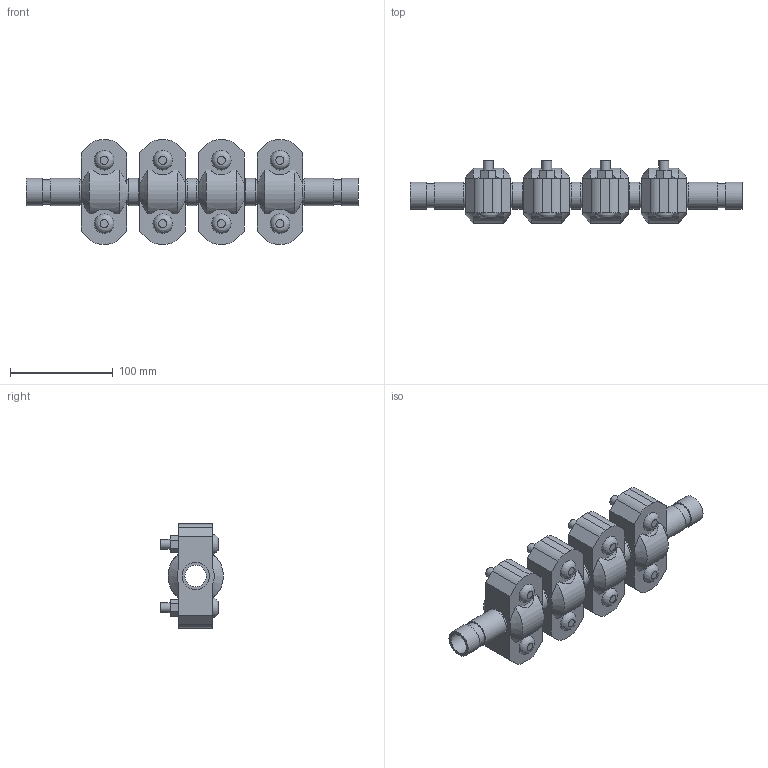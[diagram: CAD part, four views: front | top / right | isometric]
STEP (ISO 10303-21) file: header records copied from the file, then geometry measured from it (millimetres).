
FILE_DESCRIPTION(/* description */ ('VIC EXPANSION JOINT 4 COUPLINGS COMPRESSED STYLE 155 (OGS)','CAx-IF Rec.Pracs.---Representation and Presentation of Product Manufacturing Information (PMI)---4.0---2014-10-13'),/* implementation_level */ '2;1');
FILE_NAME(/* name */ 'C:\Users\kkamble\AppData\Roaming\Autodesk\ApplicationPlugins\Victaulic.Temp\A318\Victaulic_IPS_Expansion Joint_Compressed_4 Couplings_Style 155 (OGS)_0.75 (20).stp',/* time_stamp */ '2021-06-27T00:26:57+02:00',/* author */ ('kkamble'),/* organization */ ('Victaulic'),/* preprocessor_version */ 'ST-DEVELOPER v17.2',/* originating_system */ 'Autodesk Inventor 2019',/* authorisation */ '');
FILE_SCHEMA (('AP242_MANAGED_MODEL_BASED_3D_ENGINEERING_MIM_LF { 1 0 10303 442 1 1 4 }'));
Length unit declared in the file: inch
Products named in the file (4): 155-0.75; Nipple-0.75; Nipple-0.75_1; 077-0.75
Assembly tree (9 placements, depth 2):
  155-0.75
    Nipple-0.75  x2
    Nipple-0.75_1  x3
    077-0.75  x4
Bounding box: 323.85 x 61.1 x 101.6 mm (x, y, z)
Volume: 623831.2 mm3; surface area: 160650 mm2
Topology: 9 solids, 17 shells, 288 faces, 706 edges, 496 vertices
Faces by surface type: plane 166, cylinder 98, cone 16, bspline 8
Full cylindrical faces by diameter (mm): 9.525 x16, 11.43 x8, 20.93 x5, 23.825 x10, 26.67 x19
Entity records: 2891 total; most frequent: CARTESIAN_POINT 571, DIRECTION 463, ORIENTED_EDGE 398, EDGE_CURVE 199, AXIS2_PLACEMENT_3D 184, VERTEX_POINT 142, EDGE_LOOP 105, LINE 95
